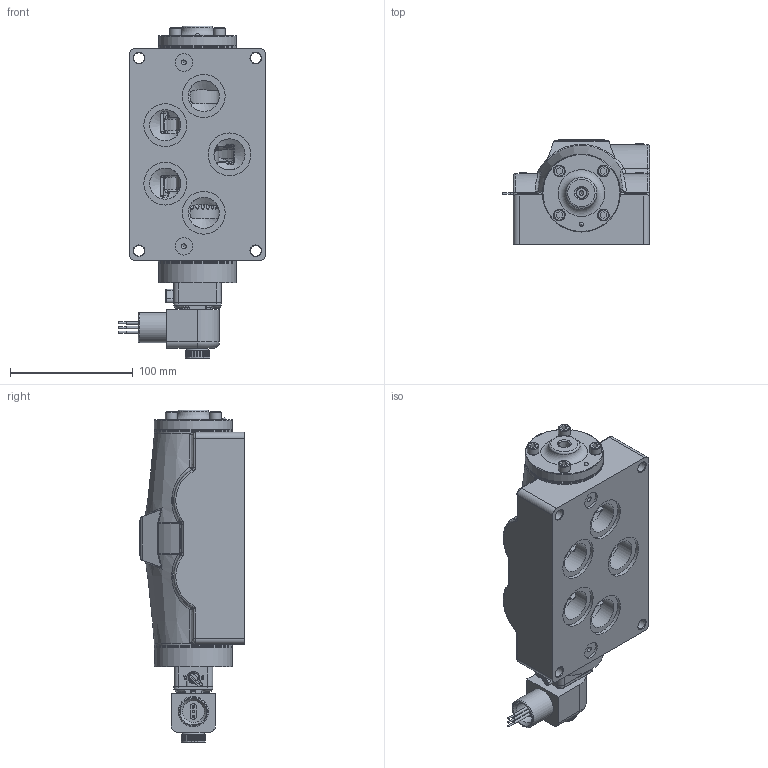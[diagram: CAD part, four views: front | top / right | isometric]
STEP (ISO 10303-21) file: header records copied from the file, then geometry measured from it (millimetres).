
FILE_DESCRIPTION(/* description */ (''),/* implementation_level */ '2;1');
FILE_NAME(/* name */ 'D:\Website Files\stp\Valves\Standard\ESR\ESR8PXOL.stp',/* time_stamp */ '2018-02-18T15:04:40-05:00',/* author */ ('RMcKenna'),/* organization */ (''),/* preprocessor_version */ 'ST-DEVELOPER v17',/* originating_system */ 'Autodesk Inventor 2018',/* authorisation */ '');
FILE_SCHEMA (('AUTOMOTIVE_DESIGN { 1 0 10303 214 3 1 1 }'));
Products named in the file (1): Part24
Bounding box: 119.93 x 86.27 x 270.76 mm (x, y, z)
Volume: 1181843.3 mm3; surface area: 203053.7 mm2
Topology: 2 solids, 34 shells, 2424 faces, 6022 edges, 3804 vertices
Faces by surface type: plane 965, cylinder 636, cone 309, bspline 251, torus 194, sphere 69
Full cylindrical faces by diameter (mm): 1.3 x1, 1.397 x1, 1.5 x1, 1.524 x3, 2.032 x11, 2.07 x2, 2.261 x2, 2.35 x4, 2.388 x1, 2.5 x1, 2.778 x2, 2.8 x1, 3 x4, 3.048 x3, 3.175 x2, 3.4 x1, 3.683 x5, 3.962 x6, 3.969 x2, 4.191 x2, 4.826 x4, 4.978 x8, 5.15 x4, 5.156 x4, 5.5 x1, 6.35 x8, 6.65 x1, 6.747 x4, 7.137 x6, 7.144 x8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
Entity records: 95664 total; most frequent: CARTESIAN_POINT 36688, ORIENTED_EDGE 11948, DIRECTION 11478, EDGE_CURVE 5974, AXIS2_PLACEMENT_3D 4460, VERTEX_POINT 3804, EDGE_LOOP 2682, LINE 2558
